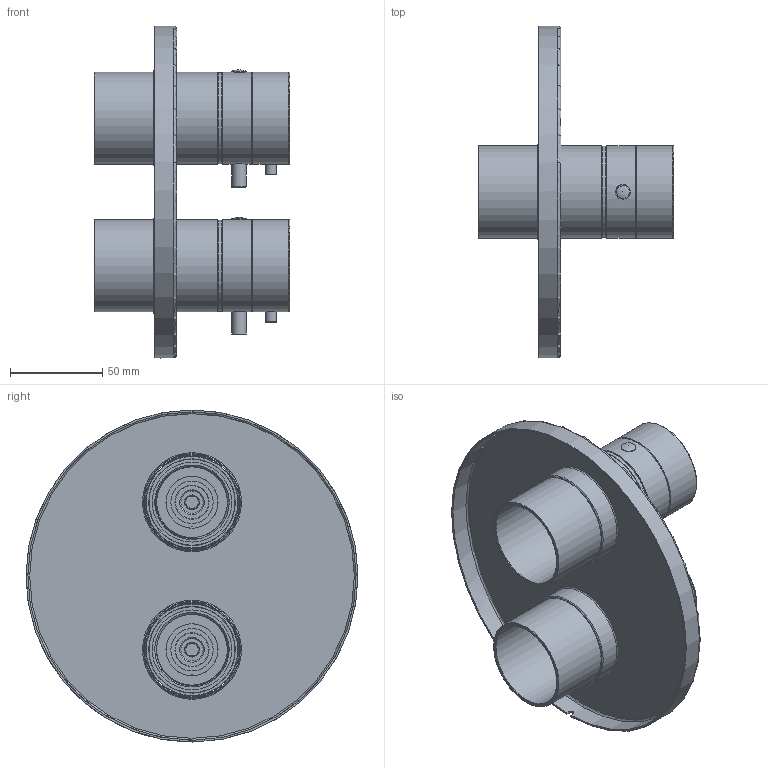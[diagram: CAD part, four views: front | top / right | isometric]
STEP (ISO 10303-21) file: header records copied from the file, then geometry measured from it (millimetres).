
FILE_DESCRIPTION(/* description */ (''),/* implementation_level */ '2;1');
FILE_NAME(/* name */ 'X:\Collections\Moderne\Riu\RUTM88\TRUTM88 3D.stp',/* time_stamp */ '2017-05-04T07:22:29-04:00',/* author */ ('simono'),/* organization */ (''),/* preprocessor_version */ 'ST-DEVELOPER v15.6',/* originating_system */ 'Autodesk Inventor 2015',/* authorisation */ '');
FILE_SCHEMA (('AUTOMOTIVE_DESIGN { 1 0 10303 214 3 1 1 }'));
Length unit declared in the file: millimetre
Products named in the file (17): 050-688; 053-004; 052-071; 002-612; 009-078; 009-077; 390-132; 1925; 001-416; 152-050; 003-013; 1979; 1965; 002-797; 152-200; 1817; RUTM88
Assembly tree (20 placements, depth 4):
  RUTM88
    050-688
    053-004  x2
    052-071  x2
    1965  x2
      1925
        002-612
        009-078
        009-077
        390-132
      1979
        001-416
        152-050
        003-013
    1817  x2
      002-797
      152-200
Bounding box: 106.14 x 180 x 180 mm (x, y, z)
Volume: 136245 mm3; surface area: 167151.1 mm2
Topology: 23 solids, 23 shells, 1110 faces, 2803 edges, 1809 vertices
Faces by surface type: plane 447, cylinder 225, bspline 186, cone 156, torus 84, sphere 12
Full cylindrical faces by diameter (mm): 2.2 x2, 3 x2, 3.242 x2, 4.134 x2, 5 x4, 6 x4, 6.5 x4, 8 x4, 8.1 x2, 12 x2, 15 x2, 18 x2, 19 x2, 19.75 x2, 21 x2, 23 x2, 25 x2, 28.2 x4, 29.2 x2, 32.2 x4, 34.3 x4, 35.3 x2, 37.5 x2, 43.2 x2, 45 x2, 46 x2, 46.6 x2, 47 x4, 49.5 x2, 50 x6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
Entity records: 22605 total; most frequent: CARTESIAN_POINT 9567, ORIENTED_EDGE 2656, DIRECTION 2401, EDGE_CURVE 1327, VERTEX_POINT 917, AXIS2_PLACEMENT_3D 884, EDGE_LOOP 749, LINE 633
